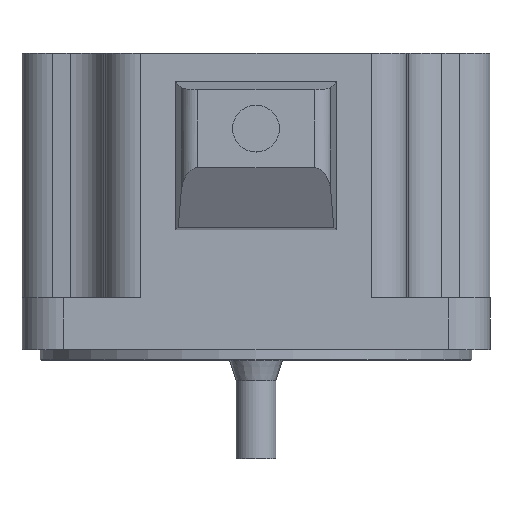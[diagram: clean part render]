
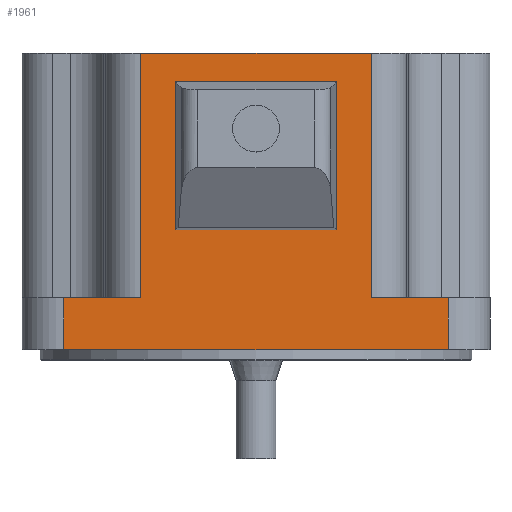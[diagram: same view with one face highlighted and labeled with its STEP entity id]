
A CAD part, front view. The second image highlights one B-rep face of the part: STEP entity #1961.
In plain terms, the highlighted planar face has unit normal (0, -1, 0).
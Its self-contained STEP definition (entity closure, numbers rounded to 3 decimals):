
#4 = EDGE_CURVE ( 'NONE', #1582, #1955, #1429, .T. ) ;
#49 = LINE ( 'NONE', #1748, #2005 ) ;
#76 = EDGE_CURVE ( 'NONE', #284, #1122, #464, .T. ) ;
#77 = CARTESIAN_POINT ( 'NONE',  ( -45., -45., 57. ) ) ;
#88 = VERTEX_POINT ( 'NONE', #174 ) ;
#121 = ORIENTED_EDGE ( 'NONE', *, *, #678, .F. ) ;
#127 = CARTESIAN_POINT ( 'NONE',  ( 22.14, -45., 57. ) ) ;
#137 = EDGE_CURVE ( 'NONE', #1162, #366, #386, .T. ) ;
#166 = LINE ( 'NONE', #1544, #503 ) ;
#170 = VERTEX_POINT ( 'NONE', #967 ) ;
#174 = CARTESIAN_POINT ( 'NONE',  ( 37., -45., 0. ) ) ;
#220 = VECTOR ( 'NONE', #687, 1000. ) ;
#245 = CARTESIAN_POINT ( 'NONE',  ( 15.5, -45., 51.5 ) ) ;
#284 = VERTEX_POINT ( 'NONE', #245 ) ;
#285 = ORIENTED_EDGE ( 'NONE', *, *, #4, .F. ) ;
#335 = EDGE_CURVE ( 'NONE', #1856, #1582, #895, .T. ) ;
#357 = DIRECTION ( 'NONE',  ( -1., 0., 0. ) ) ;
#366 = VERTEX_POINT ( 'NONE', #1024 ) ;
#386 = LINE ( 'NONE', #1288, #1610 ) ;
#389 = DIRECTION ( 'NONE',  ( 0., 0., 1. ) ) ;
#403 = ORIENTED_EDGE ( 'NONE', *, *, #692, .F. ) ;
#411 = VECTOR ( 'NONE', #1616, 1000. ) ;
#464 = LINE ( 'NONE', #1913, #1879 ) ;
#476 = EDGE_CURVE ( 'NONE', #1955, #88, #166, .T. ) ;
#483 = DIRECTION ( 'NONE',  ( -1., 0., 0. ) ) ;
#503 = VECTOR ( 'NONE', #1218, 1000. ) ;
#505 = EDGE_CURVE ( 'NONE', #1335, #1162, #1224, .T. ) ;
#538 = ORIENTED_EDGE ( 'NONE', *, *, #335, .F. ) ;
#547 = VECTOR ( 'NONE', #1512, 1000. ) ;
#561 = ORIENTED_EDGE ( 'NONE', *, *, #1995, .F. ) ;
#678 = EDGE_CURVE ( 'NONE', #366, #170, #1268, .T. ) ;
#687 = DIRECTION ( 'NONE',  ( 0., 0., 1. ) ) ;
#688 = DIRECTION ( 'NONE',  ( 1., 0., 0. ) ) ;
#690 = CARTESIAN_POINT ( 'NONE',  ( -37., -45., 0. ) ) ;
#692 = EDGE_CURVE ( 'NONE', #170, #1856, #847, .T. ) ;
#696 = CARTESIAN_POINT ( 'NONE',  ( -15.5, -45., 51.5 ) ) ;
#711 = DIRECTION ( 'NONE',  ( 0., 1., 0. ) ) ;
#819 = CARTESIAN_POINT ( 'NONE',  ( -45., -45., 23. ) ) ;
#845 = LINE ( 'NONE', #1458, #220 ) ;
#847 = LINE ( 'NONE', #77, #1744 ) ;
#895 = LINE ( 'NONE', #127, #547 ) ;
#896 = VECTOR ( 'NONE', #1885, 1000. ) ;
#900 = ORIENTED_EDGE ( 'NONE', *, *, #505, .F. ) ;
#902 = VERTEX_POINT ( 'NONE', #1087 ) ;
#913 = VERTEX_POINT ( 'NONE', #1246 ) ;
#961 = ORIENTED_EDGE ( 'NONE', *, *, #1842, .F. ) ;
#963 = CARTESIAN_POINT ( 'NONE',  ( -45., -45., 10. ) ) ;
#967 = CARTESIAN_POINT ( 'NONE',  ( -22.14, -45., 57. ) ) ;
#980 = ORIENTED_EDGE ( 'NONE', *, *, #1096, .F. ) ;
#1011 = FACE_BOUND ( 'NONE', #1499, .T. ) ;
#1024 = CARTESIAN_POINT ( 'NONE',  ( -22.14, -45., 10. ) ) ;
#1087 = CARTESIAN_POINT ( 'NONE',  ( -15.5, -45., 23. ) ) ;
#1088 = CARTESIAN_POINT ( 'NONE',  ( -37., -45., 10. ) ) ;
#1096 = EDGE_CURVE ( 'NONE', #1122, #902, #1454, .T. ) ;
#1116 = AXIS2_PLACEMENT_3D ( 'NONE', #1632, #711, #389 ) ;
#1122 = VERTEX_POINT ( 'NONE', #696 ) ;
#1139 = DIRECTION ( 'NONE',  ( 1., 0., 0. ) ) ;
#1153 = FACE_OUTER_BOUND ( 'NONE', #1366, .T. ) ;
#1162 = VERTEX_POINT ( 'NONE', #1983 ) ;
#1218 = DIRECTION ( 'NONE',  ( 0., 0., -1. ) ) ;
#1224 = LINE ( 'NONE', #1088, #1910 ) ;
#1226 = CARTESIAN_POINT ( 'NONE',  ( 22.14, -45., 10. ) ) ;
#1246 = CARTESIAN_POINT ( 'NONE',  ( 15.5, -45., 23. ) ) ;
#1268 = LINE ( 'NONE', #1435, #1651 ) ;
#1288 = CARTESIAN_POINT ( 'NONE',  ( -45., -45., 10. ) ) ;
#1335 = VERTEX_POINT ( 'NONE', #690 ) ;
#1359 = EDGE_CURVE ( 'NONE', #88, #1335, #49, .T. ) ;
#1366 = EDGE_LOOP ( 'NONE', ( #121, #1794, #900, #1448, #1781, #285, #538, #403 ) ) ;
#1413 = CARTESIAN_POINT ( 'NONE',  ( 22.14, -45., 57. ) ) ;
#1429 = LINE ( 'NONE', #963, #1680 ) ;
#1435 = CARTESIAN_POINT ( 'NONE',  ( -22.14, -45., 10. ) ) ;
#1448 = ORIENTED_EDGE ( 'NONE', *, *, #1359, .F. ) ;
#1454 = LINE ( 'NONE', #1628, #411 ) ;
#1458 = CARTESIAN_POINT ( 'NONE',  ( 15.5, -45., 10. ) ) ;
#1499 = EDGE_LOOP ( 'NONE', ( #561, #961, #980, #1980 ) ) ;
#1512 = DIRECTION ( 'NONE',  ( 0., 0., -1. ) ) ;
#1544 = CARTESIAN_POINT ( 'NONE',  ( 37., -45., 10. ) ) ;
#1549 = DIRECTION ( 'NONE',  ( 1., 0., 0. ) ) ;
#1582 = VERTEX_POINT ( 'NONE', #1226 ) ;
#1610 = VECTOR ( 'NONE', #1139, 1000. ) ;
#1612 = DIRECTION ( 'NONE',  ( 0., 0., 1. ) ) ;
#1616 = DIRECTION ( 'NONE',  ( 0., 0., -1. ) ) ;
#1628 = CARTESIAN_POINT ( 'NONE',  ( -15.5, -45., 10. ) ) ;
#1632 = CARTESIAN_POINT ( 'NONE',  ( -45., -45., 10. ) ) ;
#1651 = VECTOR ( 'NONE', #1612, 1000. ) ;
#1680 = VECTOR ( 'NONE', #1549, 1000. ) ;
#1744 = VECTOR ( 'NONE', #688, 1000. ) ;
#1748 = CARTESIAN_POINT ( 'NONE',  ( -45., -45., 0. ) ) ;
#1781 = ORIENTED_EDGE ( 'NONE', *, *, #476, .F. ) ;
#1786 = CARTESIAN_POINT ( 'NONE',  ( 37., -45., 10. ) ) ;
#1794 = ORIENTED_EDGE ( 'NONE', *, *, #137, .F. ) ;
#1827 = PLANE ( 'NONE',  #1116 ) ;
#1842 = EDGE_CURVE ( 'NONE', #902, #913, #1905, .T. ) ;
#1856 = VERTEX_POINT ( 'NONE', #1413 ) ;
#1879 = VECTOR ( 'NONE', #357, 1000. ) ;
#1884 = DIRECTION ( 'NONE',  ( 0., 0., 1. ) ) ;
#1885 = DIRECTION ( 'NONE',  ( 1., 0., 0. ) ) ;
#1905 = LINE ( 'NONE', #819, #896 ) ;
#1910 = VECTOR ( 'NONE', #1884, 1000. ) ;
#1913 = CARTESIAN_POINT ( 'NONE',  ( -45., -45., 51.5 ) ) ;
#1955 = VERTEX_POINT ( 'NONE', #1786 ) ;
#1961 = ADVANCED_FACE ( 'NONE', ( #1011, #1153 ), #1827, .F. ) ;
#1980 = ORIENTED_EDGE ( 'NONE', *, *, #76, .F. ) ;
#1983 = CARTESIAN_POINT ( 'NONE',  ( -37., -45., 10. ) ) ;
#1995 = EDGE_CURVE ( 'NONE', #913, #284, #845, .T. ) ;
#2005 = VECTOR ( 'NONE', #483, 1000. ) ;
